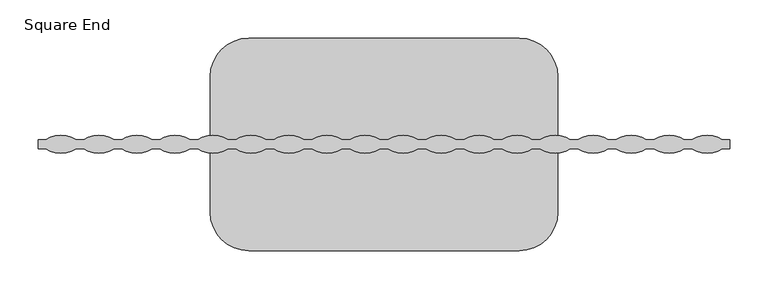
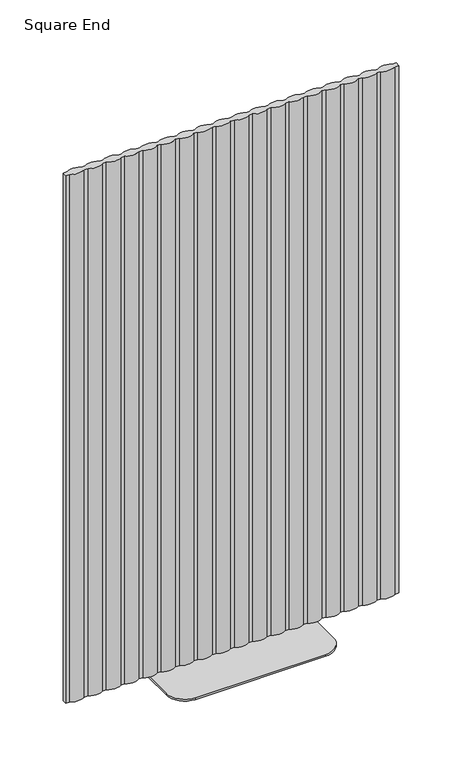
"""IFC4 building model written with IfcOpenShell, lengths in millimetres: furniture geometry, KFI Studios - Calm - Straight Screen : Square End."""

import ifcopenshell
import ifcopenshell.guid

model = None  # the IFC model being written
_history = None  # IfcOwnerHistory: only IFC2X3 demands one
_inside = {}  # id of a spatial element -> (the spatial element, [elements in it])
_under = {}  # id of a project, library or spatial element -> (it, [spatial elements below it])
_declared = {}  # id of a project -> (the project, [libraries it declares])
_typed = {}  # id of a type object -> (the type object, [elements of that type])
_made_of = {}  # id of a material, layer set ... -> (it, [elements and type objects made of it])


def new_model(schema):
    """Start an empty IFC model of exactly this schema.

    Asked for "IFC4X3", IfcOpenShell would pick the latest addendum, in which some entities
    have other attributes; the version numbers below select the first issue.
    IFC2X3 requires an IfcOwnerHistory on every rooted entity: one is made here for all.
    """
    global model, _history
    if schema == "IFC4X3":
        model = ifcopenshell.file(schema_version=(4, 3, 0, 0))
    else:
        model = ifcopenshell.file(schema=schema)
    _inside.clear()
    _under.clear()
    _declared.clear()
    _typed.clear()
    _made_of.clear()
    _history = None
    if model.schema == "IFC2X3":
        org = make("IfcOrganization", Name="unknown")
        user = make(
            "IfcPersonAndOrganization",
            ThePerson=make("IfcPerson", FamilyName="unknown"),
            TheOrganization=org,
        )
        app = make(
            "IfcApplication",
            ApplicationDeveloper=org,
            Version="unknown",
            ApplicationFullName="unknown",
            ApplicationIdentifier="unknown",
        )
        _history = make(
            "IfcOwnerHistory",
            OwningUser=user,
            OwningApplication=app,
            ChangeAction="ADDED",
            CreationDate=0,
        )
    return model


def make(cls, **values):
    """One entity of the class cls with the attributes given. An attribute that is None is left unset."""
    return model.create_entity(
        cls, **{name: value for name, value in values.items() if value is not None}
    )


def rooted(cls, **values):
    """An entity with a GlobalId (a new one), such as an element, a storey or a relation."""
    return make(cls, GlobalId=ifcopenshell.guid.new(), OwnerHistory=_history, **values)


def si_unit(unit_type, name, prefix=None):
    """IfcSIUnit, for example si_unit("LENGTHUNIT", "METRE", prefix="MILLI")."""
    return make("IfcSIUnit", UnitType=unit_type, Prefix=prefix, Name=name)


def assignment(units):
    """IfcUnitAssignment: the units of a project."""
    return None if units is None else make("IfcUnitAssignment", Units=units)


def point(xyz):
    """IfcCartesianPoint."""
    return None if xyz is None else make("IfcCartesianPoint", Coordinates=xyz)


def direction(xyz):
    """IfcDirection."""
    return None if xyz is None else make("IfcDirection", DirectionRatios=xyz)


def frame(location, z_axis=None, x_axis=None):
    """IfcAxis2Placement3D, a coordinate frame: its origin and axes. An axis left out is left unset."""
    return make(
        "IfcAxis2Placement3D",
        Location=point(location),
        Axis=direction(z_axis),
        RefDirection=direction(x_axis),
    )


def frame_2d(location, x_axis=None):
    """IfcAxis2Placement2D, a coordinate frame in the plane: its origin and x axis."""
    return make(
        "IfcAxis2Placement2D", Location=point(location), RefDirection=direction(x_axis)
    )


def origin():
    """The frame at (0, 0, 0) with its axes left unset."""
    return frame((0.0, 0.0, 0.0))


def origin_with_axes():
    """The frame at (0, 0, 0) with the z axis (0, 0, 1) and the x axis (1, 0, 0) written out."""
    return frame((0.0, 0.0, 0.0), z_axis=(0.0, 0.0, 1.0), x_axis=(1.0, 0.0, 0.0))


def place(relative_to, where):
    """IfcLocalPlacement: puts the frame where relative to a parent placement (None: the world)."""
    return make(
        "IfcLocalPlacement", PlacementRelTo=relative_to, RelativePlacement=where
    )


def context(
    kind, dimensions, precision=None, world=None, true_north=None, identifier=None
):
    """IfcGeometricRepresentationContext, for example the 3D "Model" context."""
    return make(
        "IfcGeometricRepresentationContext",
        ContextIdentifier=identifier,
        ContextType=kind,
        CoordinateSpaceDimension=dimensions,
        Precision=precision,
        WorldCoordinateSystem=world,
        TrueNorth=true_north,
    )


def project(units=None, contexts=None):
    """IfcProject with its units and contexts."""
    return rooted(
        "IfcProject",
        Name="project",
        RepresentationContexts=contexts,
        UnitsInContext=assignment(units),
    )


def spatial(cls, under=None, at=None, **own):
    """A site, building, storey or space (cls), placed at a placement, below another one or the project."""
    s = rooted(cls, ObjectPlacement=at, **own)
    if under is not None:
        _under.setdefault(under.id(), (under, []))[1].append(s)
    return s


def polyline(points):
    """IfcPolyline through the points."""
    return make("IfcPolyline", Points=[point(p) for p in points])


def circle_curve(where, radius):
    """IfcCircle in the frame where."""
    return make("IfcCircle", Position=where, Radius=radius)


def trimmed(basis, trim1, trim2, sense, master):
    """IfcTrimmedCurve: the piece of a basis curve between two trims."""
    return make(
        "IfcTrimmedCurve",
        BasisCurve=basis,
        Trim1=trim1,
        Trim2=trim2,
        SenseAgreement=sense,
        MasterRepresentation=master,
    )


def segment(curve, same_sense, transition):
    """IfcCompositeCurveSegment."""
    return make(
        "IfcCompositeCurveSegment",
        Transition=transition,
        SameSense=same_sense,
        ParentCurve=curve,
    )


def composite_curve(segments, self_intersect=None):
    """IfcCompositeCurve: segments joined end to end."""
    return make("IfcCompositeCurve", Segments=segments, SelfIntersect=self_intersect)


def outline(outer, holes=None, kind="AREA"):
    """IfcArbitraryClosedProfileDef: a profile drawn as a closed curve; with holes, ...WithVoids."""
    if holes is None:
        return make("IfcArbitraryClosedProfileDef", ProfileType=kind, OuterCurve=outer)
    return make(
        "IfcArbitraryProfileDefWithVoids",
        ProfileType=kind,
        OuterCurve=outer,
        InnerCurves=holes,
    )


def extrude(swept, where, along, depth):
    """IfcExtrudedAreaSolid: the profile swept, set in the frame where, extruded along a direction by depth."""
    return make(
        "IfcExtrudedAreaSolid",
        SweptArea=swept,
        Position=where,
        ExtrudedDirection=direction(along),
        Depth=depth,
    )


def shape(context_of_items, identifier, shape_type, items):
    """IfcShapeRepresentation: the items that make up one representation, for example the "Body"."""
    return make(
        "IfcShapeRepresentation",
        ContextOfItems=context_of_items,
        RepresentationIdentifier=identifier,
        RepresentationType=shape_type,
        Items=items,
    )


def source(mapping_origin, context_of_items, identifier, shape_type, items):
    """IfcRepresentationMap: a shape defined once, which mapped items show again and again."""
    return make(
        "IfcRepresentationMap",
        MappingOrigin=mapping_origin,
        MappedRepresentation=shape(context_of_items, identifier, shape_type, items),
    )


def transform(
    local_origin,
    x_axis=None,
    y_axis=None,
    z_axis=None,
    scale=None,
    scale2=None,
    scale3=None,
    uniform=True,
):
    """IfcCartesianTransformationOperator3D, or its non-uniform kind. x_axis, y_axis, z_axis: its Axis1, 2, 3."""
    if uniform:
        return make(
            "IfcCartesianTransformationOperator3D",
            Axis1=direction(x_axis),
            Axis2=direction(y_axis),
            LocalOrigin=point(local_origin),
            Scale=scale,
            Axis3=direction(z_axis),
        )
    return make(
        "IfcCartesianTransformationOperator3DnonUniform",
        Axis1=direction(x_axis),
        Axis2=direction(y_axis),
        LocalOrigin=point(local_origin),
        Scale=scale,
        Axis3=direction(z_axis),
        Scale2=scale2,
        Scale3=scale3,
    )


def mapped(mapping_source, mapping_target):
    """IfcMappedItem: shows the shape of a source again, moved by a transform."""
    return make(
        "IfcMappedItem", MappingSource=mapping_source, MappingTarget=mapping_target
    )


def made_of(thing, what):
    """Note that an element or type object is made of a material, layer set ...; save() writes the relation."""
    if what is not None:
        _made_of.setdefault(what.id(), (what, []))[1].append(thing)
    return thing


def element(
    cls,
    number,
    at=None,
    inside=None,
    cuts=None,
    type_object=None,
    material=None,
    context=None,
    identifier="Body",
    shape_type=None,
    held_by="IfcProductDefinitionShape",
    body=None,
    shapes=None,
    **own,
):
    """One element of the class cls, such as IfcWall. Its Tag is "e" and its number.

    at: its placement. inside: the storey or other place that contains it. cuts: it is an
    opening in that element (IfcRelVoidsElement). A single representation is given by context,
    identifier, shape_type and body (its items); several are given by shapes. held_by: the class
    of the entity that holds the representations. save() writes the other relations.
    """
    e = rooted(cls, Tag="e%d" % number, ObjectPlacement=at, **own)
    if body is not None:
        shapes = [shape(context, identifier, shape_type, body)]
    if shapes is not None:
        e.Representation = make(held_by, Representations=shapes)
    if inside is not None:
        _inside.setdefault(inside.id(), (inside, []))[1].append(e)
    if cuts is not None:
        rooted(
            "IfcRelVoidsElement", RelatingBuildingElement=cuts, RelatedOpeningElement=e
        )
    if type_object is not None:
        _typed.setdefault(type_object.id(), (type_object, []))[1].append(e)
    return made_of(e, material)


def aggregate(whole, parts):
    """IfcRelAggregates: a whole, such as a stair, and the parts it consists of."""
    return rooted("IfcRelAggregates", RelatingObject=whole, RelatedObjects=parts)


def save(model, path):
    """Write the relations noted so far, then the file.

    IfcRelAggregates (storeys below a building ...), IfcRelContainedInSpatialStructure (elements
    in a storey), IfcRelDefinesByType, IfcRelAssociatesMaterial and IfcRelDeclares: one each for
    every whole, place, type object, material and project.
    """
    for whole, parts in _under.values():
        aggregate(whole, parts)
    for where, things in _inside.values():
        rooted(
            "IfcRelContainedInSpatialStructure",
            RelatedElements=things,
            RelatingStructure=where,
        )
    for kind, things in _typed.values():
        rooted("IfcRelDefinesByType", RelatedObjects=things, RelatingType=kind)
    for what, things in _made_of.values():
        rooted("IfcRelAssociatesMaterial", RelatedObjects=things, RelatingMaterial=what)
    for by, libraries in _declared.values():
        rooted("IfcRelDeclares", RelatingContext=by, RelatedDefinitions=libraries)
    model.write(path)


def square_end_608f2f8a(model_context):
    return source(origin(), model_context, "Body", "SweptSolid", [
        extrude(outline(composite_curve([segment(polyline([(-404.9999704, 6.1264753), (-394.9998575, 6.1264753)]), True, "CONTINUOUS"), segment(trimmed(circle_curve(frame_2d((-374.999883, -24.3937721)), 36.4895119), [point((-394.9998575, 6.1264753))], [point((-354.9999085, 6.1264753))], False, "CARTESIAN"), True, "CONTINUOUS"), segment(polyline([(-354.9999085, 6.1264753), (-344.9998027, 6.1264753)]), True, "CONTINUOUS"), segment(trimmed(circle_curve(frame_2d((-324.99981, -24.3937602)), 36.4895119), [point((-344.9998027, 6.1264753))], [point((-304.9998173, 6.1264753))], False, "CARTESIAN"), True, "CONTINUOUS"), segment(polyline([(-304.9998173, 6.1264753), (-294.999785, 6.1264753)]), True, "CONTINUOUS"), segment(trimmed(circle_curve(frame_2d((-274.9997733, -24.3937477)), 36.4895119), [point((-294.999785, 6.1264753))], [point((-254.9997615, 6.1264753))], False, "CARTESIAN"), True, "CONTINUOUS"), segment(polyline([(-254.9997615, 6.1264753), (-244.9999482, 6.1264753)]), True, "CONTINUOUS"), segment(trimmed(circle_curve(frame_2d((-224.9999182, -24.3937358)), 36.4895119), [point((-244.9999482, 6.1264753))], [point((-204.9998883, 6.1264753))], False, "CARTESIAN"), True, "CONTINUOUS"), segment(polyline([(-204.9998883, 6.1264753), (-194.9999106, 6.1264753)]), True, "CONTINUOUS"), segment(trimmed(circle_curve(frame_2d((-174.9998633, -24.3937244)), 36.4895119), [point((-194.9999106, 6.1264753))], [point((-154.9998161, 6.1264753))], False, "CARTESIAN"), True, "CONTINUOUS"), segment(polyline([(-154.9998161, 6.1264753), (-144.999883, 6.1264753)]), True, "CONTINUOUS"), segment(trimmed(circle_curve(frame_2d((-124.9998175, -24.3937125)), 36.4895119), [point((-144.999883, 6.1264753))], [point((-104.9997521, 6.1264753))], False, "CARTESIAN"), True, "CONTINUOUS"), segment(polyline([(-104.9997521, 6.1264753), (-94.9998563, 6.1264753)]), True, "CONTINUOUS"), segment(trimmed(circle_curve(frame_2d((-74.9997717, -24.3937)), 36.4895119), [point((-94.9998563, 6.1264753))], [point((-54.9996872, 6.1264753))], False, "CARTESIAN"), True, "CONTINUOUS"), segment(polyline([(-54.9996872, 6.1264753), (-44.9999232, 6.1264753)]), True, "CONTINUOUS"), segment(trimmed(circle_curve(frame_2d((-24.9998213, -24.3936887)), 36.4895119), [point((-44.9999232, 6.1264753))], [point((-4.9998685, 6.1265729))], False, "CARTESIAN"), True, "CONTINUOUS"), segment(polyline([(-4.9998685, 6.1265729), (4.9998685, 6.1265729)]), True, "CONTINUOUS"), segment(trimmed(circle_curve(frame_2d((24.9998213, -24.3936887)), 36.4895119), [point((4.9998685, 6.1265729))], [point((44.9999232, 6.1264753))], False, "CARTESIAN"), True, "CONTINUOUS"), segment(polyline([(44.9999232, 6.1264753), (54.9996872, 6.1264753)]), True, "CONTINUOUS"), segment(trimmed(circle_curve(frame_2d((74.9997717, -24.3937)), 36.4895119), [point((54.9996872, 6.1264753))], [point((94.9998563, 6.1264753))], False, "CARTESIAN"), True, "CONTINUOUS"), segment(polyline([(94.9998563, 6.1264753), (104.9997521, 6.1264753)]), True, "CONTINUOUS"), segment(trimmed(circle_curve(frame_2d((124.9998175, -24.3937125)), 36.4895119), [point((104.9997521, 6.1264753))], [point((144.999883, 6.1264753))], False, "CARTESIAN"), True, "CONTINUOUS"), segment(polyline([(144.999883, 6.1264753), (154.9998161, 6.1264753)]), True, "CONTINUOUS"), segment(trimmed(circle_curve(frame_2d((174.9998633, -24.3937244)), 36.4895119), [point((154.9998161, 6.1264753))], [point((194.9999106, 6.1264753))], False, "CARTESIAN"), True, "CONTINUOUS"), segment(polyline([(194.9999106, 6.1264753), (204.9998883, 6.1264753)]), True, "CONTINUOUS"), segment(trimmed(circle_curve(frame_2d((224.9999182, -24.3937358)), 36.4895119), [point((204.9998883, 6.1264753))], [point((244.9999482, 6.1264753))], False, "CARTESIAN"), True, "CONTINUOUS"), segment(polyline([(244.9999482, 6.1264753), (254.9997615, 6.1264753)]), True, "CONTINUOUS"), segment(trimmed(circle_curve(frame_2d((274.9997733, -24.3937477)), 36.4895119), [point((254.9997615, 6.1264753))], [point((294.999785, 6.1264753))], False, "CARTESIAN"), True, "CONTINUOUS"), segment(polyline([(294.999785, 6.1264753), (304.9998173, 6.1264753)]), True, "CONTINUOUS"), segment(trimmed(circle_curve(frame_2d((324.99981, -24.3937602)), 36.4895119), [point((304.9998173, 6.1264753))], [point((344.9998027, 6.1264753))], False, "CARTESIAN"), True, "CONTINUOUS"), segment(polyline([(344.9998027, 6.1264753), (354.9999085, 6.1264753)]), True, "CONTINUOUS"), segment(trimmed(circle_curve(frame_2d((374.999883, -24.3937721)), 36.4895119), [point((354.9999085, 6.1264753))], [point((394.9998575, 6.1264753))], False, "CARTESIAN"), True, "CONTINUOUS"), segment(polyline([(394.9998575, 6.1264753), (404.9999704, 6.1264753)]), True, "CONTINUOUS"), segment(trimmed(circle_curve(frame_2d((424.9999232, -24.3937863)), 36.4895119), [point((404.9999704, 6.1264753))], [point((444.9998761, 6.1264753))], False, "CARTESIAN"), True, "CONTINUOUS"), segment(polyline([(444.9998761, 6.1264753), (455.0000253, 6.1264753), (455.0000253, -6.1264753), (444.9998761, -6.1264753)]), True, "CONTINUOUS"), segment(trimmed(circle_curve(frame_2d((424.9999232, 24.3937863)), 36.4895119), [point((444.9998761, -6.1264753))], [point((404.9999704, -6.1264753))], False, "CARTESIAN"), True, "CONTINUOUS"), segment(polyline([(404.9999704, -6.1264753), (394.9998575, -6.1264753)]), True, "CONTINUOUS"), segment(trimmed(circle_curve(frame_2d((374.999883, 24.3937721)), 36.4895119), [point((394.9998575, -6.1264753))], [point((354.9999085, -6.1264753))], False, "CARTESIAN"), True, "CONTINUOUS"), segment(polyline([(354.9999085, -6.1264753), (344.9998027, -6.1264753)]), True, "CONTINUOUS"), segment(trimmed(circle_curve(frame_2d((324.99981, 24.3937602)), 36.4895119), [point((344.9998027, -6.1264753))], [point((304.9998173, -6.1264753))], False, "CARTESIAN"), True, "CONTINUOUS"), segment(polyline([(304.9998173, -6.1264753), (294.999785, -6.1264753)]), True, "CONTINUOUS"), segment(trimmed(circle_curve(frame_2d((274.9997733, 24.3937477)), 36.4895119), [point((294.999785, -6.1264753))], [point((254.9997615, -6.1264753))], False, "CARTESIAN"), True, "CONTINUOUS"), segment(polyline([(254.9997615, -6.1264753), (244.9999482, -6.1264753)]), True, "CONTINUOUS"), segment(trimmed(circle_curve(frame_2d((224.9999182, 24.3937358)), 36.4895119), [point((244.9999482, -6.1264753))], [point((204.9998883, -6.1264753))], False, "CARTESIAN"), True, "CONTINUOUS"), segment(polyline([(204.9998883, -6.1264753), (194.9999106, -6.1264753)]), True, "CONTINUOUS"), segment(trimmed(circle_curve(frame_2d((174.9998633, 24.3937244)), 36.4895119), [point((194.9999106, -6.1264753))], [point((154.9998161, -6.1264753))], False, "CARTESIAN"), True, "CONTINUOUS"), segment(polyline([(154.9998161, -6.1264753), (144.999883, -6.1264753)]), True, "CONTINUOUS"), segment(trimmed(circle_curve(frame_2d((124.9998175, 24.3937125)), 36.4895119), [point((144.999883, -6.1264753))], [point((104.9997521, -6.1264753))], False, "CARTESIAN"), True, "CONTINUOUS"), segment(polyline([(104.9997521, -6.1264753), (94.9998563, -6.1264753)]), True, "CONTINUOUS"), segment(trimmed(circle_curve(frame_2d((74.9997717, 24.3937)), 36.4895119), [point((94.9998563, -6.1264753))], [point((54.9996872, -6.1264753))], False, "CARTESIAN"), True, "CONTINUOUS"), segment(polyline([(54.9996872, -6.1264753), (44.9999232, -6.1264753)]), True, "CONTINUOUS"), segment(trimmed(circle_curve(frame_2d((24.9998213, 24.3936887)), 36.4895119), [point((44.9999232, -6.1264753))], [point((4.9998685, -6.1265729))], False, "CARTESIAN"), True, "CONTINUOUS"), segment(polyline([(4.9998685, -6.1265729), (-4.9998685, -6.1265729)]), True, "CONTINUOUS"), segment(trimmed(circle_curve(frame_2d((-24.9998213, 24.3936887)), 36.4895119), [point((-4.9998685, -6.1265729))], [point((-44.9999232, -6.1264753))], False, "CARTESIAN"), True, "CONTINUOUS"), segment(polyline([(-44.9999232, -6.1264753), (-54.9996872, -6.1264753)]), True, "CONTINUOUS"), segment(trimmed(circle_curve(frame_2d((-74.9997717, 24.3937)), 36.4895119), [point((-54.9996872, -6.1264753))], [point((-94.9998563, -6.1264753))], False, "CARTESIAN"), True, "CONTINUOUS"), segment(polyline([(-94.9998563, -6.1264753), (-104.9997521, -6.1264753)]), True, "CONTINUOUS"), segment(trimmed(circle_curve(frame_2d((-124.9998175, 24.3937125)), 36.4895119), [point((-104.9997521, -6.1264753))], [point((-144.999883, -6.1264753))], False, "CARTESIAN"), True, "CONTINUOUS"), segment(polyline([(-144.999883, -6.1264753), (-154.9998161, -6.1264753)]), True, "CONTINUOUS"), segment(trimmed(circle_curve(frame_2d((-174.9998633, 24.3937244)), 36.4895119), [point((-154.9998161, -6.1264753))], [point((-194.9999106, -6.1264753))], False, "CARTESIAN"), True, "CONTINUOUS"), segment(polyline([(-194.9999106, -6.1264753), (-204.9998883, -6.1264753)]), True, "CONTINUOUS"), segment(trimmed(circle_curve(frame_2d((-224.9999182, 24.3937358)), 36.4895119), [point((-204.9998883, -6.1264753))], [point((-244.9999482, -6.1264753))], False, "CARTESIAN"), True, "CONTINUOUS"), segment(polyline([(-244.9999482, -6.1264753), (-254.9997615, -6.1264753)]), True, "CONTINUOUS"), segment(trimmed(circle_curve(frame_2d((-274.9997733, 24.3937477)), 36.4895119), [point((-254.9997615, -6.1264753))], [point((-294.999785, -6.1264753))], False, "CARTESIAN"), True, "CONTINUOUS"), segment(polyline([(-294.999785, -6.1264753), (-304.9998173, -6.1264753)]), True, "CONTINUOUS"), segment(trimmed(circle_curve(frame_2d((-324.99981, 24.3937602)), 36.4895119), [point((-304.9998173, -6.1264753))], [point((-344.9998027, -6.1264753))], False, "CARTESIAN"), True, "CONTINUOUS"), segment(polyline([(-344.9998027, -6.1264753), (-354.9999085, -6.1264753)]), True, "CONTINUOUS"), segment(trimmed(circle_curve(frame_2d((-374.999883, 24.3937721)), 36.4895119), [point((-354.9999085, -6.1264753))], [point((-394.9998575, -6.1264753))], False, "CARTESIAN"), True, "CONTINUOUS"), segment(polyline([(-394.9998575, -6.1264753), (-404.9999704, -6.1264753)]), True, "CONTINUOUS"), segment(trimmed(circle_curve(frame_2d((-424.9999232, 24.3937863)), 36.4895119), [point((-404.9999704, -6.1264753))], [point((-444.9998761, -6.1264753))], False, "CARTESIAN"), True, "CONTINUOUS"), segment(polyline([(-444.9998761, -6.1264753), (-455.0000253, -6.1264753), (-455.0000253, 6.1264753), (-444.9998761, 6.1264753)]), True, "CONTINUOUS"), segment(trimmed(circle_curve(frame_2d((-424.9999232, -24.3937863)), 36.4895119), [point((-444.9998761, 6.1264753))], [point((-404.9999704, 6.1264753))], False, "CARTESIAN"), True, "CONTINUOUS")], self_intersect=False)), frame((0.0, 0.0, 5.2700272), z_axis=(0.0, 0.0, 1.0), x_axis=(1.0, 0.0, 0.0)), (0.0, 0.0, 1.0), 1523.9885666),
        extrude(outline(composite_curve([segment(polyline([(-177.8004845, 139.6998304), (177.8004845, 139.6998304)]), True, "CONTINUOUS"), segment(trimmed(circle_curve(frame_2d((177.8004845, 88.8998244)), 50.8000061), [point((177.8004845, 139.6998304))], [point((228.6004905, 88.8998244))], False, "CARTESIAN"), True, "CONTINUOUS"), segment(polyline([(228.6004905, 88.8998244), (228.6004905, -88.9001696)]), True, "CONTINUOUS"), segment(trimmed(circle_curve(frame_2d((177.8004936, -88.9001696)), 50.799997), [point((228.6004905, -88.9001696))], [point((177.8004936, -139.7001665))], False, "CARTESIAN"), True, "CONTINUOUS"), segment(polyline([(177.8004936, -139.7001665), (-177.8004936, -139.7001665)]), True, "CONTINUOUS"), segment(trimmed(circle_curve(frame_2d((-177.8004936, -88.9001696)), 50.799997), [point((-177.8004936, -139.7001665))], [point((-228.6004905, -88.9001696))], False, "CARTESIAN"), True, "CONTINUOUS"), segment(polyline([(-228.6004905, -88.9001696), (-228.6004905, 88.8998244)]), True, "CONTINUOUS"), segment(trimmed(circle_curve(frame_2d((-177.8004845, 88.8998244)), 50.8000061), [point((-228.6004905, 88.8998244))], [point((-177.8004845, 139.6998304))], False, "CARTESIAN"), True, "CONTINUOUS")], self_intersect=False)), origin_with_axes(), (0.0, 0.0, 1.0), 5.2700272),
    ])


if __name__ == "__main__":
    model = new_model("IFC4")
    model_context = context("Model", 3, world=origin())
    ifc_project = project(units=[si_unit("LENGTHUNIT", "METRE", prefix="MILLI")], contexts=[model_context])
    site = spatial("IfcSite", under=ifc_project)
    building = spatial("IfcBuilding", under=site)
    placement = place(None, origin())
    square_end_shape = square_end_608f2f8a(model_context)
    element("IfcFurniture", 1, ObjectType="KFI Studios - Calm - Straight Screen : Square End", at=placement, inside=building, context=model_context, shape_type="MappedRepresentation", body=[
        mapped(square_end_shape, transform((0.0, 0.0, 0.0), x_axis=(1.0, 0.0, 0.0), y_axis=(0.0, 1.0, 0.0), z_axis=(0.0, 0.0, 1.0))),
    ])
    save(model, "model.ifc")
